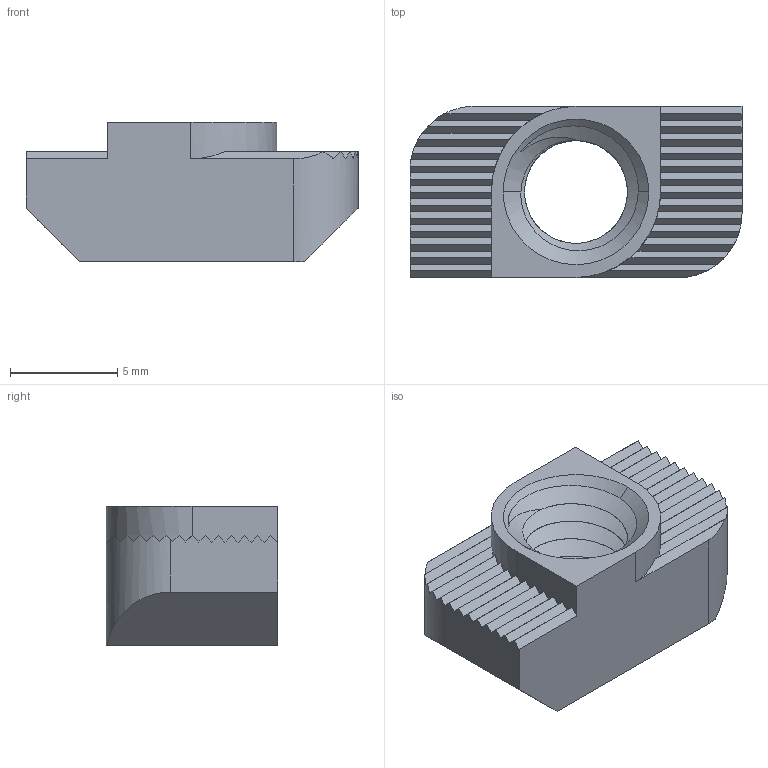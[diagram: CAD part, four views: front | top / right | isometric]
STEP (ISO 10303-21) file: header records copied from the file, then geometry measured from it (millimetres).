
FILE_DESCRIPTION (( 'STEP AP214' ), '1' );
FILE_NAME ('5006 Ò-ãàéêà Ì6 ñåðèÿ 30 ïàç 8.STEP', '2014-11-28T06:55:16', ( 'Matveev' ), ( '' ), 'SwSTEP 2.0', 'SolidWorks 2014', '' );
FILE_SCHEMA (( 'AUTOMOTIVE_DESIGN' ));
Length unit declared in the file: millimetre
Products named in the file (1): 5006 Ò-ãàéêà Ì6 ñåðèÿ 30 ïàç 8
Bounding box: 15.5 x 8 x 6.5 mm (x, y, z)
Volume: 477.9 mm3; surface area: 648.5 mm2
Topology: 1 solids, 1 shells, 82 faces, 240 edges, 160 vertices
Faces by surface type: plane 62, cylinder 16, cone 2, bspline 2
Entity records: 3491 total; most frequent: CARTESIAN_POINT 1506, ORIENTED_EDGE 480, DIRECTION 330, EDGE_CURVE 240, VERTEX_POINT 160, VECTOR 152, LINE 152, AXIS2_PLACEMENT_3D 89
